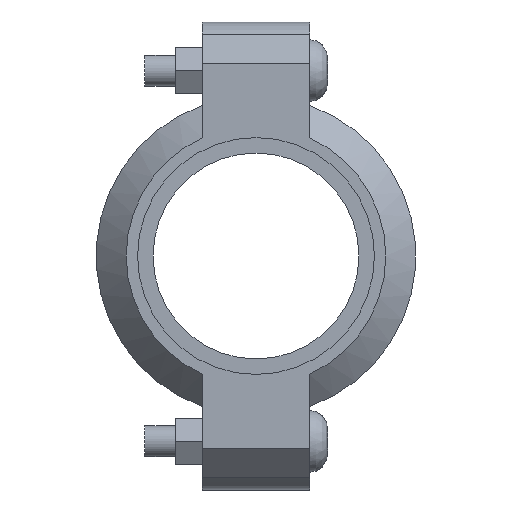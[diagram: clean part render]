
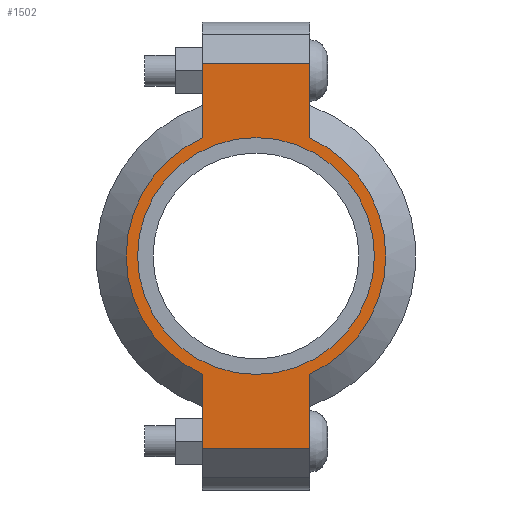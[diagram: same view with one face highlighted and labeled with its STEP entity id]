
A CAD part, left-side view. The second image highlights one B-rep face of the part: STEP entity #1502.
In plain terms, the highlighted planar face has unit normal (-1, 0, 0) as drawn and (0, 0, 1) by its records, which use the part's own axes.
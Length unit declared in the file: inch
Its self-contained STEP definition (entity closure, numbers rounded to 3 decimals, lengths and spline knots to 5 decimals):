
#126=LINE('',#2612,#219);
#134=LINE('',#2648,#227);
#141=LINE('',#2669,#234);
#150=LINE('',#2701,#243);
#151=LINE('',#2705,#244);
#152=LINE('',#2707,#245);
#219=VECTOR('',#2136,0.3937);
#227=VECTOR('',#2152,0.3937);
#234=VECTOR('',#2171,0.3937);
#243=VECTOR('',#2196,0.3937);
#244=VECTOR('',#2201,0.3937);
#245=VECTOR('',#2202,0.3937);
#301=FACE_BOUND('',#479,.T.);
#373=FACE_OUTER_BOUND('',#478,.T.);
#478=EDGE_LOOP('',(#1243,#1244,#1245,#1246,#1247,#1248,#1249,#1250));
#479=EDGE_LOOP('',(#1251));
#551=CIRCLE('',#1712,1.4375);
#577=CIRCLE('',#1771,1.575);
#578=CIRCLE('',#1772,1.575);
#643=VERTEX_POINT('',#2428);
#686=VERTEX_POINT('',#2609);
#687=VERTEX_POINT('',#2611);
#698=VERTEX_POINT('',#2643);
#699=VERTEX_POINT('',#2647);
#706=VERTEX_POINT('',#2666);
#707=VERTEX_POINT('',#2668);
#717=VERTEX_POINT('',#2704);
#718=VERTEX_POINT('',#2706);
#799=EDGE_CURVE('',#643,#643,#551,.T.);
#860=EDGE_CURVE('',#687,#686,#126,.T.);
#874=EDGE_CURVE('',#699,#698,#134,.T.);
#884=EDGE_CURVE('',#707,#706,#141,.T.);
#899=EDGE_CURVE('',#699,#686,#150,.T.);
#900=EDGE_CURVE('',#698,#707,#577,.T.);
#901=EDGE_CURVE('',#717,#706,#151,.T.);
#902=EDGE_CURVE('',#717,#718,#152,.T.);
#903=EDGE_CURVE('',#718,#687,#578,.T.);
#1243=ORIENTED_EDGE('',*,*,#899,.F.);
#1244=ORIENTED_EDGE('',*,*,#874,.T.);
#1245=ORIENTED_EDGE('',*,*,#900,.T.);
#1246=ORIENTED_EDGE('',*,*,#884,.T.);
#1247=ORIENTED_EDGE('',*,*,#901,.F.);
#1248=ORIENTED_EDGE('',*,*,#902,.T.);
#1249=ORIENTED_EDGE('',*,*,#903,.T.);
#1250=ORIENTED_EDGE('',*,*,#860,.T.);
#1251=ORIENTED_EDGE('',*,*,#799,.T.);
#1344=PLANE('',#1770);
#1502=ADVANCED_FACE('',(#373,#301),#1344,.T.);
#1712=AXIS2_PLACEMENT_3D('',#2430,#2012,#2013);
#1770=AXIS2_PLACEMENT_3D('',#2702,#2197,#2198);
#1771=AXIS2_PLACEMENT_3D('',#2703,#2199,#2200);
#1772=AXIS2_PLACEMENT_3D('',#2708,#2203,#2204);
#2012=DIRECTION('center_axis',(0.,0.,-1.));
#2013=DIRECTION('ref_axis',(-1.,0.,0.));
#2136=DIRECTION('',(-1.,0.,0.));
#2152=DIRECTION('',(1.,0.,0.));
#2171=DIRECTION('',(1.,0.,0.));
#2196=DIRECTION('',(0.,1.,0.));
#2197=DIRECTION('center_axis',(0.,0.,1.));
#2198=DIRECTION('ref_axis',(1.,0.,0.));
#2199=DIRECTION('center_axis',(0.,0.,1.));
#2200=DIRECTION('ref_axis',(-1.,0.,0.));
#2201=DIRECTION('',(0.,-1.,0.));
#2202=DIRECTION('',(-1.,0.,0.));
#2203=DIRECTION('center_axis',(0.,0.,1.));
#2204=DIRECTION('ref_axis',(-1.,0.,0.));
#2428=CARTESIAN_POINT('',(1.4375,0.,0.94));
#2430=CARTESIAN_POINT('Origin',(0.,0.,0.94));
#2609=CARTESIAN_POINT('',(-2.34,0.65,0.94));
#2611=CARTESIAN_POINT('',(-1.43462,0.65,0.94));
#2612=CARTESIAN_POINT('',(-2.84,0.65,0.94));
#2643=CARTESIAN_POINT('',(-1.43462,-0.65,0.94));
#2647=CARTESIAN_POINT('',(-2.34,-0.65,0.94));
#2648=CARTESIAN_POINT('',(2.84,-0.65,0.94));
#2666=CARTESIAN_POINT('',(2.34,-0.65,0.94));
#2668=CARTESIAN_POINT('',(1.43462,-0.65,0.94));
#2669=CARTESIAN_POINT('',(2.84,-0.65,0.94));
#2701=CARTESIAN_POINT('',(-2.34,0.325,0.94));
#2702=CARTESIAN_POINT('Origin',(0.,0.,
0.94));
#2703=CARTESIAN_POINT('Origin',(0.,0.,0.94));
#2704=CARTESIAN_POINT('',(2.34,0.65,0.94));
#2705=CARTESIAN_POINT('',(2.34,-0.325,0.94));
#2706=CARTESIAN_POINT('',(1.43462,0.65,0.94));
#2707=CARTESIAN_POINT('',(-2.84,0.65,0.94));
#2708=CARTESIAN_POINT('Origin',(0.,0.,0.94));
